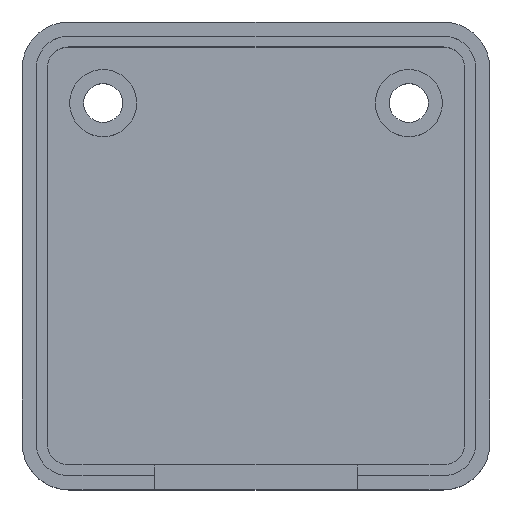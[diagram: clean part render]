
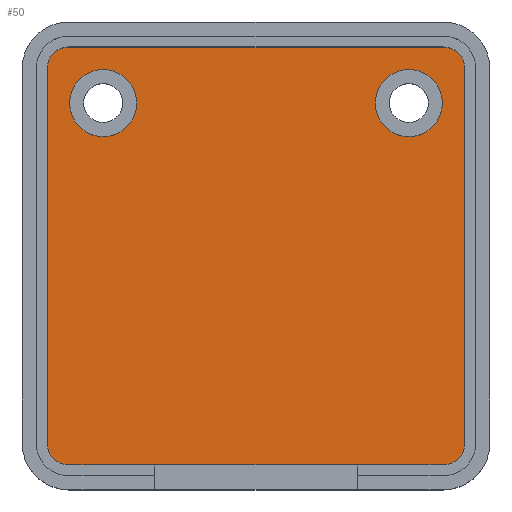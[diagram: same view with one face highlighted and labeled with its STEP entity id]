
A CAD part, top view. The second image highlights one B-rep face of the part: STEP entity #50.
In plain terms, the highlighted planar face has unit normal (0, 0, 1).
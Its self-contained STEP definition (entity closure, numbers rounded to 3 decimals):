
#21 = EDGE_CURVE('',#22,#22,#24,.T.);
#22 = VERTEX_POINT('',#23);
#23 = CARTESIAN_POINT('',(7.35,24.8,1.6));
#24 = CIRCLE('',#25,2.15);
#25 = AXIS2_PLACEMENT_3D('',#26,#27,#28);
#26 = CARTESIAN_POINT('',(5.2,24.8,1.6));
#27 = DIRECTION('',(0.,0.,-1.));
#28 = DIRECTION('',(1.,0.,0.));
#50 = ADVANCED_FACE('',(#51,#121,#132),#135,.F.);
#51 = FACE_BOUND('',#52,.F.);
#52 = EDGE_LOOP('',(#53,#64,#72,#81,#89,#98,#106,#115));
#53 = ORIENTED_EDGE('',*,*,#54,.F.);
#54 = EDGE_CURVE('',#55,#57,#59,.T.);
#55 = VERTEX_POINT('',#56);
#56 = CARTESIAN_POINT('',(1.6,3.,1.6));
#57 = VERTEX_POINT('',#58);
#58 = CARTESIAN_POINT('',(3.,1.6,1.6));
#59 = CIRCLE('',#60,1.4);
#60 = AXIS2_PLACEMENT_3D('',#61,#62,#63);
#61 = CARTESIAN_POINT('',(3.,3.,1.6));
#62 = DIRECTION('',(0.,0.,1.));
#63 = DIRECTION('',(1.,0.,0.));
#64 = ORIENTED_EDGE('',*,*,#65,.T.);
#65 = EDGE_CURVE('',#55,#66,#68,.T.);
#66 = VERTEX_POINT('',#67);
#67 = CARTESIAN_POINT('',(1.6,27.,1.6));
#68 = LINE('',#69,#70);
#69 = CARTESIAN_POINT('',(1.6,3.,1.6));
#70 = VECTOR('',#71,1.);
#71 = DIRECTION('',(0.,1.,0.));
#72 = ORIENTED_EDGE('',*,*,#73,.F.);
#73 = EDGE_CURVE('',#74,#66,#76,.T.);
#74 = VERTEX_POINT('',#75);
#75 = CARTESIAN_POINT('',(3.,28.4,1.6));
#76 = CIRCLE('',#77,1.4);
#77 = AXIS2_PLACEMENT_3D('',#78,#79,#80);
#78 = CARTESIAN_POINT('',(3.,27.,1.6));
#79 = DIRECTION('',(0.,0.,1.));
#80 = DIRECTION('',(1.,0.,0.));
#81 = ORIENTED_EDGE('',*,*,#82,.T.);
#82 = EDGE_CURVE('',#74,#83,#85,.T.);
#83 = VERTEX_POINT('',#84);
#84 = CARTESIAN_POINT('',(27.,28.4,1.6));
#85 = LINE('',#86,#87);
#86 = CARTESIAN_POINT('',(3.,28.4,1.6));
#87 = VECTOR('',#88,1.);
#88 = DIRECTION('',(1.,0.,0.));
#89 = ORIENTED_EDGE('',*,*,#90,.F.);
#90 = EDGE_CURVE('',#91,#83,#93,.T.);
#91 = VERTEX_POINT('',#92);
#92 = CARTESIAN_POINT('',(28.4,27.,1.6));
#93 = CIRCLE('',#94,1.4);
#94 = AXIS2_PLACEMENT_3D('',#95,#96,#97);
#95 = CARTESIAN_POINT('',(27.,27.,1.6));
#96 = DIRECTION('',(0.,0.,1.));
#97 = DIRECTION('',(1.,0.,0.));
#98 = ORIENTED_EDGE('',*,*,#99,.F.);
#99 = EDGE_CURVE('',#100,#91,#102,.T.);
#100 = VERTEX_POINT('',#101);
#101 = CARTESIAN_POINT('',(28.4,3.,1.6));
#102 = LINE('',#103,#104);
#103 = CARTESIAN_POINT('',(28.4,3.,1.6));
#104 = VECTOR('',#105,1.);
#105 = DIRECTION('',(0.,1.,0.));
#106 = ORIENTED_EDGE('',*,*,#107,.F.);
#107 = EDGE_CURVE('',#108,#100,#110,.T.);
#108 = VERTEX_POINT('',#109);
#109 = CARTESIAN_POINT('',(27.,1.6,1.6));
#110 = CIRCLE('',#111,1.4);
#111 = AXIS2_PLACEMENT_3D('',#112,#113,#114);
#112 = CARTESIAN_POINT('',(27.,3.,1.6));
#113 = DIRECTION('',(0.,0.,1.));
#114 = DIRECTION('',(1.,0.,0.));
#115 = ORIENTED_EDGE('',*,*,#116,.F.);
#116 = EDGE_CURVE('',#57,#108,#117,.T.);
#117 = LINE('',#118,#119);
#118 = CARTESIAN_POINT('',(3.,1.6,1.6));
#119 = VECTOR('',#120,1.);
#120 = DIRECTION('',(1.,0.,0.));
#121 = FACE_BOUND('',#122,.F.);
#122 = EDGE_LOOP('',(#123));
#123 = ORIENTED_EDGE('',*,*,#124,.F.);
#124 = EDGE_CURVE('',#125,#125,#127,.T.);
#125 = VERTEX_POINT('',#126);
#126 = CARTESIAN_POINT('',(26.95,24.8,1.6));
#127 = CIRCLE('',#128,2.15);
#128 = AXIS2_PLACEMENT_3D('',#129,#130,#131);
#129 = CARTESIAN_POINT('',(24.8,24.8,1.6));
#130 = DIRECTION('',(0.,0.,-1.));
#131 = DIRECTION('',(1.,0.,0.));
#132 = FACE_BOUND('',#133,.F.);
#133 = EDGE_LOOP('',(#134));
#134 = ORIENTED_EDGE('',*,*,#21,.F.);
#135 = PLANE('',#136);
#136 = AXIS2_PLACEMENT_3D('',#137,#138,#139);
#137 = CARTESIAN_POINT('',(15.,15.,1.6));
#138 = DIRECTION('',(-0.,-0.,-1.));
#139 = DIRECTION('',(-1.,0.,0.));
